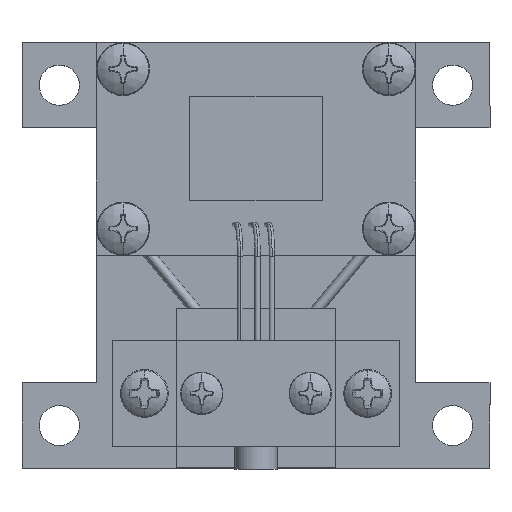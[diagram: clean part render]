
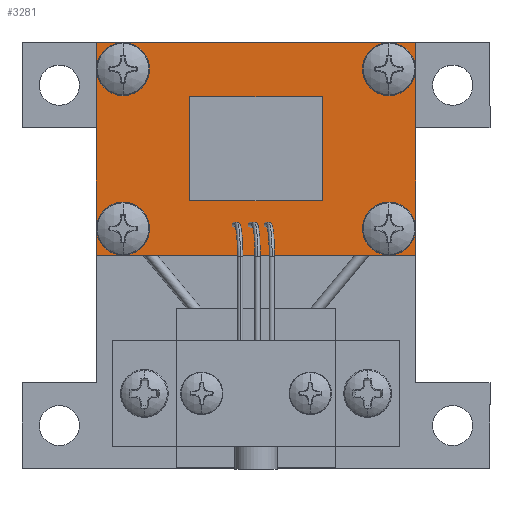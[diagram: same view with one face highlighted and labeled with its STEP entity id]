
A CAD part, top view. The second image highlights one B-rep face of the part: STEP entity #3281.
In plain terms, the highlighted planar face has unit normal (0, 0, 1).
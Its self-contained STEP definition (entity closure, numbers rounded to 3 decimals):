
#47 = CARTESIAN_POINT ( 'NONE',  ( 0., 20., 1.6 ) ) ;
#106 = DIRECTION ( 'NONE',  ( 0., 0., 1. ) ) ;
#151 = ORIENTED_EDGE ( 'NONE', *, *, #19628, .F. ) ;
#477 = DIRECTION ( 'NONE',  ( 0., 0., 1. ) ) ;
#502 = DIRECTION ( 'NONE',  ( -1., 0., 0. ) ) ;
#550 = DIRECTION ( 'NONE',  ( 1., 0., 0. ) ) ;
#884 = VERTEX_POINT ( 'NONE', #22272 ) ;
#924 = DIRECTION ( 'NONE',  ( 0., -1., 0. ) ) ;
#1321 = DIRECTION ( 'NONE',  ( 0., 0., 1. ) ) ;
#1358 = EDGE_LOOP ( 'NONE', ( #5134, #11634 ) ) ;
#1435 = VECTOR ( 'NONE', #22192, 1000. ) ;
#1473 = EDGE_CURVE ( 'NONE', #3713, #11387, #19442, .T. ) ;
#1910 = CARTESIAN_POINT ( 'NONE',  ( 1., 2.5, 1.6 ) ) ;
#2587 = VERTEX_POINT ( 'NONE', #12667 ) ;
#2698 = DIRECTION ( 'NONE',  ( -1., 0., 0. ) ) ;
#3281 = ADVANCED_FACE ( 'NONE', ( #8502, #3712, #8767, #4270, #22799 ), #15259, .F. ) ;
#3473 = AXIS2_PLACEMENT_3D ( 'NONE', #9785, #6164, #4508 ) ;
#3712 = FACE_BOUND ( 'NONE', #19380, .T. ) ;
#3713 = VERTEX_POINT ( 'NONE', #18890 ) ;
#4256 = CARTESIAN_POINT ( 'NONE',  ( 2.5, 2.5, 1.6 ) ) ;
#4270 = FACE_BOUND ( 'NONE', #1358, .T. ) ;
#4351 = CIRCLE ( 'NONE', #15962, 1.5 ) ;
#4353 = CARTESIAN_POINT ( 'NONE',  ( 2.5, 2.5, 1.6 ) ) ;
#4401 = VERTEX_POINT ( 'NONE', #4451 ) ;
#4428 = CIRCLE ( 'NONE', #16749, 1.5 ) ;
#4451 = CARTESIAN_POINT ( 'NONE',  ( 30., 0., 1.6 ) ) ;
#4508 = DIRECTION ( 'NONE',  ( -1., 0., 0. ) ) ;
#4695 = CARTESIAN_POINT ( 'NONE',  ( 26., 17.5, 1.6 ) ) ;
#4716 = DIRECTION ( 'NONE',  ( 1., 0., 0. ) ) ;
#5134 = ORIENTED_EDGE ( 'NONE', *, *, #6783, .F. ) ;
#5242 = ORIENTED_EDGE ( 'NONE', *, *, #12359, .T. ) ;
#5335 = EDGE_CURVE ( 'NONE', #884, #6088, #16515, .T. ) ;
#5775 = EDGE_CURVE ( 'NONE', #8828, #10812, #12308, .T. ) ;
#6088 = VERTEX_POINT ( 'NONE', #9815 ) ;
#6164 = DIRECTION ( 'NONE',  ( 0., 0., -1. ) ) ;
#6197 = CARTESIAN_POINT ( 'NONE',  ( 2.5, 17.5, 1.6 ) ) ;
#6392 = DIRECTION ( 'NONE',  ( 1., 0., 0. ) ) ;
#6596 = VECTOR ( 'NONE', #9394, 1000. ) ;
#6664 = CIRCLE ( 'NONE', #8228, 1.5 ) ;
#6783 = EDGE_CURVE ( 'NONE', #2587, #14494, #6664, .T. ) ;
#6791 = VERTEX_POINT ( 'NONE', #15098 ) ;
#6888 = CIRCLE ( 'NONE', #20129, 1.5 ) ;
#7430 = EDGE_CURVE ( 'NONE', #10812, #8828, #22663, .T. ) ;
#7908 = CARTESIAN_POINT ( 'NONE',  ( 30., 0., 1.6 ) ) ;
#8228 = AXIS2_PLACEMENT_3D ( 'NONE', #8274, #11715, #6392 ) ;
#8274 = CARTESIAN_POINT ( 'NONE',  ( 27.5, 2.5, 1.6 ) ) ;
#8309 = VECTOR ( 'NONE', #924, 1000. ) ;
#8502 = FACE_BOUND ( 'NONE', #16777, .T. ) ;
#8595 = EDGE_CURVE ( 'NONE', #11387, #3713, #14878, .T. ) ;
#8767 = FACE_BOUND ( 'NONE', #17561, .T. ) ;
#8803 = ORIENTED_EDGE ( 'NONE', *, *, #5775, .F. ) ;
#8828 = VERTEX_POINT ( 'NONE', #15627 ) ;
#8953 = ORIENTED_EDGE ( 'NONE', *, *, #7430, .F. ) ;
#9258 = CARTESIAN_POINT ( 'NONE',  ( 26., 2.5, 1.6 ) ) ;
#9394 = DIRECTION ( 'NONE',  ( 0., 1., 0. ) ) ;
#9690 = ORIENTED_EDGE ( 'NONE', *, *, #22982, .T. ) ;
#9785 = CARTESIAN_POINT ( 'NONE',  ( 0., 0., 1.6 ) ) ;
#9815 = CARTESIAN_POINT ( 'NONE',  ( 0., 20., 1.6 ) ) ;
#9876 = DIRECTION ( 'NONE',  ( 0., 0., 1. ) ) ;
#10469 = DIRECTION ( 'NONE',  ( 1., 0., 0. ) ) ;
#10483 = EDGE_CURVE ( 'NONE', #6088, #18323, #22317, .T. ) ;
#10561 = EDGE_CURVE ( 'NONE', #14201, #6791, #6888, .T. ) ;
#10812 = VERTEX_POINT ( 'NONE', #12523 ) ;
#11330 = EDGE_CURVE ( 'NONE', #14494, #2587, #4351, .T. ) ;
#11333 = DIRECTION ( 'NONE',  ( 0., 0., 1. ) ) ;
#11334 = ORIENTED_EDGE ( 'NONE', *, *, #5335, .T. ) ;
#11387 = VERTEX_POINT ( 'NONE', #1910 ) ;
#11400 = DIRECTION ( 'NONE',  ( 0., 0., 1. ) ) ;
#11634 = ORIENTED_EDGE ( 'NONE', *, *, #11330, .F. ) ;
#11644 = CARTESIAN_POINT ( 'NONE',  ( 27.5, 17.5, 1.6 ) ) ;
#11715 = DIRECTION ( 'NONE',  ( 0., 0., 1. ) ) ;
#11955 = AXIS2_PLACEMENT_3D ( 'NONE', #16789, #477, #550 ) ;
#12308 = CIRCLE ( 'NONE', #11955, 1.5 ) ;
#12359 = EDGE_CURVE ( 'NONE', #4401, #884, #19750, .T. ) ;
#12523 = CARTESIAN_POINT ( 'NONE',  ( 4., 17.5, 1.6 ) ) ;
#12667 = CARTESIAN_POINT ( 'NONE',  ( 29., 2.5, 1.6 ) ) ;
#13095 = ORIENTED_EDGE ( 'NONE', *, *, #10483, .T. ) ;
#13492 = DIRECTION ( 'NONE',  ( -1., 0., 0. ) ) ;
#13619 = DIRECTION ( 'NONE',  ( -1., 0., 0. ) ) ;
#14087 = ORIENTED_EDGE ( 'NONE', *, *, #10561, .F. ) ;
#14099 = EDGE_LOOP ( 'NONE', ( #13095, #9690, #5242, #11334 ) ) ;
#14201 = VERTEX_POINT ( 'NONE', #4695 ) ;
#14230 = AXIS2_PLACEMENT_3D ( 'NONE', #6197, #1321, #4716 ) ;
#14363 = CARTESIAN_POINT ( 'NONE',  ( 0., 0., 1.6 ) ) ;
#14494 = VERTEX_POINT ( 'NONE', #9258 ) ;
#14878 = CIRCLE ( 'NONE', #21311, 1.5 ) ;
#15098 = CARTESIAN_POINT ( 'NONE',  ( 29., 17.5, 1.6 ) ) ;
#15259 = PLANE ( 'NONE',  #3473 ) ;
#15627 = CARTESIAN_POINT ( 'NONE',  ( 1., 17.5, 1.6 ) ) ;
#15962 = AXIS2_PLACEMENT_3D ( 'NONE', #22860, #106, #10469 ) ;
#16515 = LINE ( 'NONE', #47, #20708 ) ;
#16709 = CARTESIAN_POINT ( 'NONE',  ( 0., 0., 1.6 ) ) ;
#16749 = AXIS2_PLACEMENT_3D ( 'NONE', #11644, #11333, #2698 ) ;
#16777 = EDGE_LOOP ( 'NONE', ( #20822, #16784 ) ) ;
#16784 = ORIENTED_EDGE ( 'NONE', *, *, #8595, .F. ) ;
#16789 = CARTESIAN_POINT ( 'NONE',  ( 2.5, 17.5, 1.6 ) ) ;
#17097 = AXIS2_PLACEMENT_3D ( 'NONE', #4353, #19007, #13619 ) ;
#17561 = EDGE_LOOP ( 'NONE', ( #151, #14087 ) ) ;
#18323 = VERTEX_POINT ( 'NONE', #14363 ) ;
#18875 = CARTESIAN_POINT ( 'NONE',  ( 0., 0., 1.6 ) ) ;
#18890 = CARTESIAN_POINT ( 'NONE',  ( 4., 2.5, 1.6 ) ) ;
#19007 = DIRECTION ( 'NONE',  ( 0., 0., 1. ) ) ;
#19380 = EDGE_LOOP ( 'NONE', ( #8953, #8803 ) ) ;
#19442 = CIRCLE ( 'NONE', #17097, 1.5 ) ;
#19628 = EDGE_CURVE ( 'NONE', #6791, #14201, #4428, .T. ) ;
#19750 = LINE ( 'NONE', #7908, #6596 ) ;
#20129 = AXIS2_PLACEMENT_3D ( 'NONE', #22423, #9876, #13492 ) ;
#20504 = LINE ( 'NONE', #16709, #1435 ) ;
#20708 = VECTOR ( 'NONE', #21378, 1000. ) ;
#20822 = ORIENTED_EDGE ( 'NONE', *, *, #1473, .F. ) ;
#21311 = AXIS2_PLACEMENT_3D ( 'NONE', #4256, #11400, #502 ) ;
#21378 = DIRECTION ( 'NONE',  ( -1., 0., 0. ) ) ;
#22192 = DIRECTION ( 'NONE',  ( 1., 0., 0. ) ) ;
#22272 = CARTESIAN_POINT ( 'NONE',  ( 30., 20., 1.6 ) ) ;
#22317 = LINE ( 'NONE', #18875, #8309 ) ;
#22423 = CARTESIAN_POINT ( 'NONE',  ( 27.5, 17.5, 1.6 ) ) ;
#22663 = CIRCLE ( 'NONE', #14230, 1.5 ) ;
#22799 = FACE_OUTER_BOUND ( 'NONE', #14099, .T. ) ;
#22860 = CARTESIAN_POINT ( 'NONE',  ( 27.5, 2.5, 1.6 ) ) ;
#22982 = EDGE_CURVE ( 'NONE', #18323, #4401, #20504, .T. ) ;
